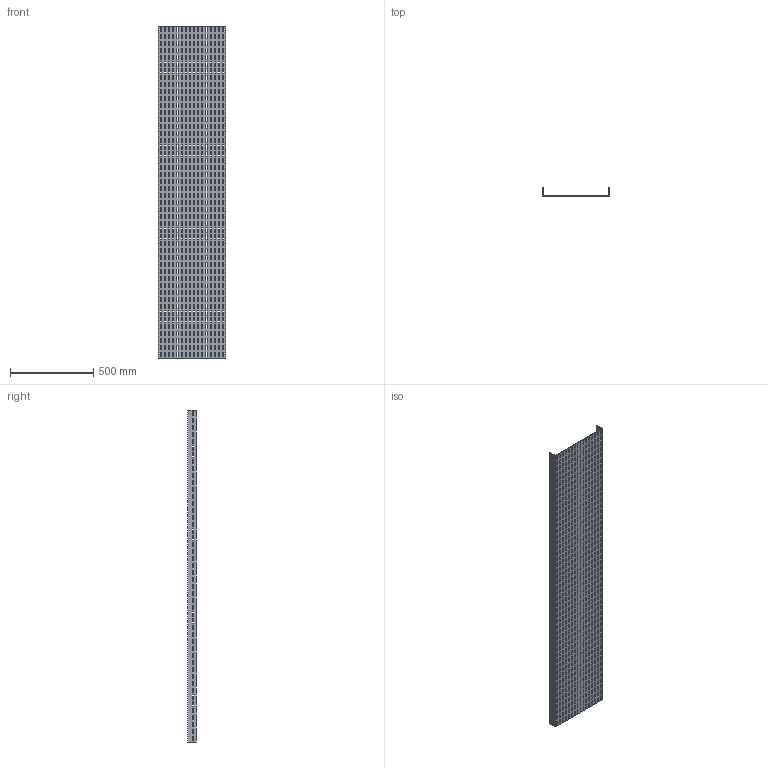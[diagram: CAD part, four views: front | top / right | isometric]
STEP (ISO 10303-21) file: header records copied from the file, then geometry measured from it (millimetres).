
FILE_DESCRIPTION (( 'STEP AP214' ), '1' );
FILE_NAME ('01F2B400.step', '2025-02-21T13:18:00', ( '' ), ( '' ), 'SwSTEP 2.0', 'SolidWorks 2023', '' );
FILE_SCHEMA (( 'AUTOMOTIVE_DESIGN' ));
Products named in the file (1): 01F2B400
Bounding box: 404 x 52 x 2000 mm (x, y, z)
Volume: 2977800 mm3; surface area: 1912643 mm2
Topology: 1 solids, 1 shells, 3466 faces, 10392 edges, 6928 vertices
Faces by surface type: plane 3466
Entity records: 117815 total; most frequent: CARTESIAN_POINT 20787, ORIENTED_EDGE 20784, DIRECTION 17326, LINE 10392, VECTOR 10392, EDGE_CURVE 10392, VERTEX_POINT 6928, EDGE_LOOP 5194
